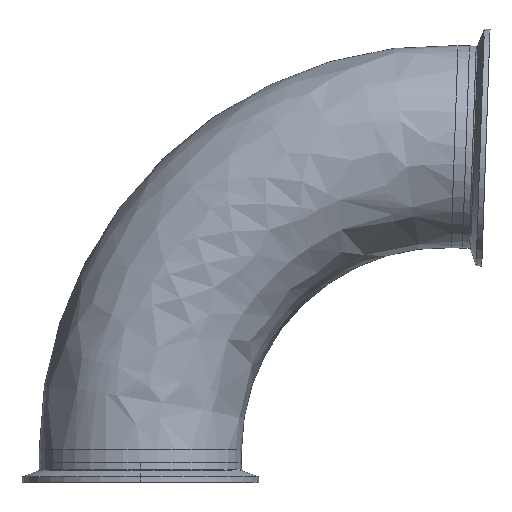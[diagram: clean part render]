
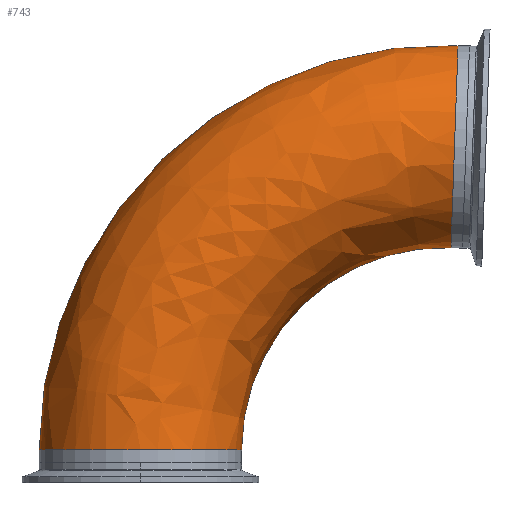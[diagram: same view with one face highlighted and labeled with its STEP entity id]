
A CAD part, top view. The second image highlights one B-rep face of the part: STEP entity #743.
In plain terms, the highlighted free-form (B-spline) face has degree [3, 3] with [4, 4] control points.
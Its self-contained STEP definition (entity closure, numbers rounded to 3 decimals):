
#5 = CIRCLE ( 'NONE', #2751, 50.8 ) ;
#84 = CARTESIAN_POINT ( 'NONE',  ( 94.807, 110.066, 0. ) ) ;
#268 = ORIENTED_EDGE ( 'NONE', *, *, #2227, .T. ) ;
#341 = CARTESIAN_POINT ( 'NONE',  ( 155.946, 107.931, 0. ) ) ;
#363 = EDGE_CURVE ( 'NONE', #1782, #2736, #2876, .T. ) ;
#370 = CARTESIAN_POINT ( 'NONE',  ( -50.8, 6.393, 0. ) ) ;
#416 = CARTESIAN_POINT ( 'NONE',  ( 50.8, 6.393, 0. ) ) ;
#454 = CARTESIAN_POINT ( 'NONE',  ( 155.946, 107.931, 0. ) ) ;
#665 = DIRECTION ( 'NONE',  ( 0., 1., 0. ) ) ;
#743 = ADVANCED_FACE ( 'NONE', ( #1026 ), #2880, .T. ) ;
#775 = ORIENTED_EDGE ( 'NONE', *, *, #3224, .T. ) ;
#848 = ORIENTED_EDGE ( 'NONE', *, *, #1524, .T. ) ;
#870 = CARTESIAN_POINT ( 'NONE',  ( -50.8, 128.746, 0. ) ) ;
#1026 = FACE_OUTER_BOUND ( 'NONE', #1882, .T. ) ;
#1251 = CARTESIAN_POINT ( 'NONE',  ( -50.8, 128.746, 101.6 ) ) ;
#1275 = CARTESIAN_POINT ( 'NONE',  ( 152.4, 6.393, 0. ) ) ;
#1327 = CARTESIAN_POINT ( 'NONE',  ( 159.492, 209.469, 0. ) ) ;
#1481 = VERTEX_POINT ( 'NONE', #416 ) ;
#1524 = EDGE_CURVE ( 'NONE', #1781, #2736, #5, .T. ) ;
#1551 = AXIS2_PLACEMENT_3D ( 'NONE', #3173, #2990, #3254 ) ;
#1557 = DIRECTION ( 'NONE',  ( -1., 0., 0. ) ) ;
#1714 = CARTESIAN_POINT ( 'NONE',  ( -50.8, 6.393, 101.6 ) ) ;
#1781 = VERTEX_POINT ( 'NONE', #341 ) ;
#1782 = VERTEX_POINT ( 'NONE', #370 ) ;
#1864 = CARTESIAN_POINT ( 'NONE',  ( -50.8, 6.393, 0. ) ) ;
#1882 = EDGE_LOOP ( 'NONE', ( #775, #268, #848, #2387 ) ) ;
#1898 = CARTESIAN_POINT ( 'NONE',  ( 50.8, 6.393, 0. ) ) ;
#1947 = DIRECTION ( 'NONE',  ( 0.035, 0.999, 0. ) ) ;
#1994 = CARTESIAN_POINT ( 'NONE',  ( 37.213, 213.74, 101.6 ) ) ;
#2029 = CARTESIAN_POINT ( 'NONE',  ( 50.8, 67.57, 0. ) ) ;
#2155 = AXIS2_PLACEMENT_3D ( 'NONE', #2270, #665, #2562 ) ;
#2227 = EDGE_CURVE ( 'NONE', #1481, #1781, #2553, .T. ) ;
#2270 = CARTESIAN_POINT ( 'NONE',  ( 0., 6.393, 0. ) ) ;
#2387 = ORIENTED_EDGE ( 'NONE', *, *, #363, .F. ) ;
#2438 = CARTESIAN_POINT ( 'NONE',  ( 155.946, 107.931, 101.6 ) ) ;
#2451 = CARTESIAN_POINT ( 'NONE',  ( 37.213, 213.74, 0. ) ) ;
#2507 = CARTESIAN_POINT ( 'NONE',  ( 157.719, 158.7, 0. ) ) ;
#2533 = DIRECTION ( 'NONE',  ( -0.999, 0.035, 0. ) ) ;
#2553 = CIRCLE ( 'NONE', #2942, 101.6 ) ;
#2562 = DIRECTION ( 'NONE',  ( -1., 0., 0. ) ) ;
#2736 = VERTEX_POINT ( 'NONE', #3120 ) ;
#2751 = AXIS2_PLACEMENT_3D ( 'NONE', #2507, #2533, #1947 ) ;
#2876 = CIRCLE ( 'NONE', #1551, 203.2 ) ;
#2879 = CARTESIAN_POINT ( 'NONE',  ( 50.8, 6.393, 101.6 ) ) ;
#2880 =( BOUNDED_SURFACE ( )  B_SPLINE_SURFACE ( 3, 3, ( 
 ( #1864, #870, #2451, #1327 ),
 ( #1714, #1251, #1994, #3317 ),
 ( #2879, #3027, #3052, #2438 ),
 ( #1898, #2029, #84, #454 ) ),
 .UNSPECIFIED., .F., .F., .F. ) 
 B_SPLINE_SURFACE_WITH_KNOTS ( ( 4, 4 ),
 ( 4, 4 ),
 ( 0., 1. ),
 ( 0., 1. ),
 .UNSPECIFIED. ) 
 GEOMETRIC_REPRESENTATION_ITEM ( )  RATIONAL_B_SPLINE_SURFACE ( (
 ( 1., 0.796, 0.796, 1.),
 ( 0.333, 0.265, 0.265, 0.333),
 ( 0.333, 0.265, 0.265, 0.333),
 ( 1., 0.796, 0.796, 1.) ) ) 
 REPRESENTATION_ITEM ( '' )  SURFACE ( )  );
#2942 = AXIS2_PLACEMENT_3D ( 'NONE', #1275, #3144, #1557 ) ;
#2990 = DIRECTION ( 'NONE',  ( 0., 0., -1. ) ) ;
#3027 = CARTESIAN_POINT ( 'NONE',  ( 50.8, 67.57, 101.6 ) ) ;
#3052 = CARTESIAN_POINT ( 'NONE',  ( 94.807, 110.066, 101.6 ) ) ;
#3120 = CARTESIAN_POINT ( 'NONE',  ( 159.492, 209.469, 0. ) ) ;
#3126 = CIRCLE ( 'NONE', #2155, 50.8 ) ;
#3144 = DIRECTION ( 'NONE',  ( 0., 0., -1. ) ) ;
#3173 = CARTESIAN_POINT ( 'NONE',  ( 152.4, 6.393, 0. ) ) ;
#3224 = EDGE_CURVE ( 'NONE', #1782, #1481, #3126, .T. ) ;
#3254 = DIRECTION ( 'NONE',  ( -1., 0., 0. ) ) ;
#3317 = CARTESIAN_POINT ( 'NONE',  ( 159.492, 209.469, 101.6 ) ) ;
